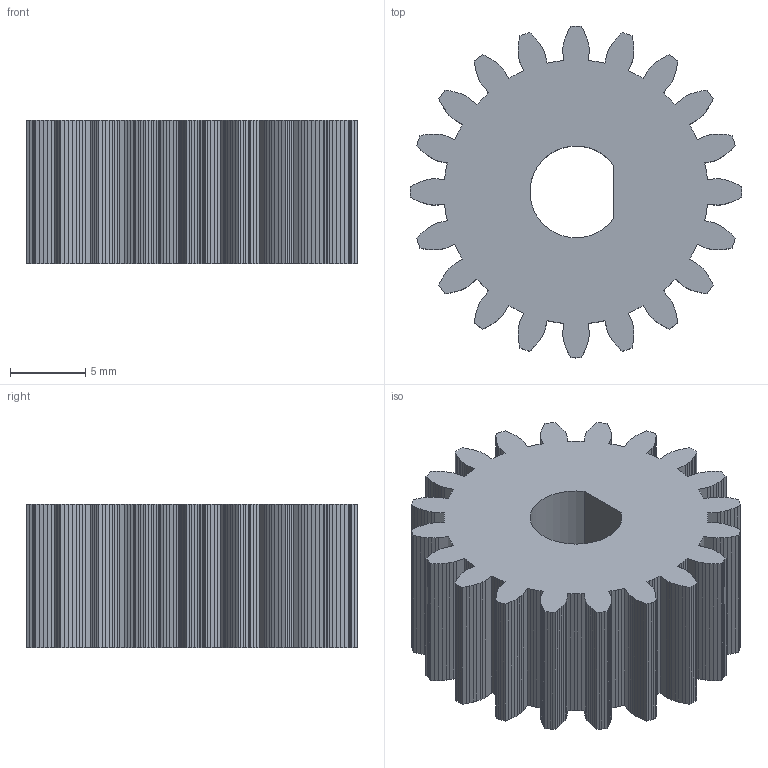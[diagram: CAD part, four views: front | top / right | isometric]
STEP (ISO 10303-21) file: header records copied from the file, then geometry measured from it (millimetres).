
FILE_DESCRIPTION(('Open CASCADE Model'),'2;1');
FILE_NAME('Open CASCADE Shape Model','2026-10-17T22:08:14',('Author'),( 'Open CASCADE'),'Open CASCADE STEP processor 7.9','Open CASCADE 7.9' ,'Unknown');
FILE_SCHEMA(('AUTOMOTIVE_DESIGN { 1 0 10303 214 1 1 1 1 }'));
Length unit declared in the file: millimetre
Products named in the file (1): Open CASCADE STEP translator 7.9 6
Bounding box: 22 x 22 x 9.5 mm (x, y, z)
Volume: 2645.6 mm3; surface area: 1987.2 mm2
Topology: 1 solids, 1 shells, 504 faces, 1506 edges, 1004 vertices
Faces by surface type: plane 503, cylinder 1
Entity records: 36190 total; most frequent: CARTESIAN_POINT 6039, DIRECTION 5528, LINE 4514, VECTOR 4514, ORIENTED_EDGE 3012, PCURVE 3012, DEFINITIONAL_REPRESENTATION 3012, EDGE_CURVE 1506
